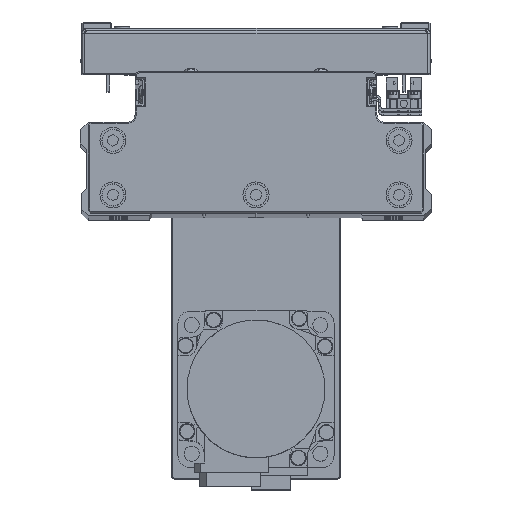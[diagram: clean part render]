
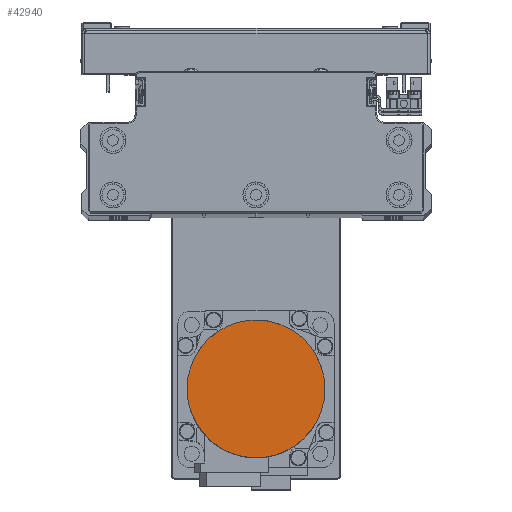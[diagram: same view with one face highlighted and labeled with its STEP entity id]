
A CAD part, top view. The second image highlights one B-rep face of the part: STEP entity #42940.
In plain terms, the highlighted planar face has unit normal (0, 0, 1) as drawn and (0, 0, -1) by its records, which use the part's own axes.
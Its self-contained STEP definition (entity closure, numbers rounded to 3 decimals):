
#840 = CARTESIAN_POINT ( 'NONE',  ( 26.5, 0., -109.7 ) ) ;
#1058 = CARTESIAN_POINT ( 'NONE',  ( 8.539, 25.147, -109.7 ) ) ;
#1205 = CARTESIAN_POINT ( 'NONE',  ( -21.07, -16.165, -109.7 ) ) ;
#1282 = CARTESIAN_POINT ( 'NONE',  ( -21.07, 16.165, -109.7 ) ) ;
#1438 = CARTESIAN_POINT ( 'NONE',  ( 8.539, -25.147, -109.7 ) ) ;
#1651 = CARTESIAN_POINT ( 'NONE',  ( 26.5, 0., -109.7 ) ) ;
#3064 = B_SPLINE_CURVE_WITH_KNOTS ( 'NONE', 3,
 ( #38622, #7916, #21591, #35255, #4548, #18230, #31892, #1205, #14856, #28563, #42225, #11498, #25177, #38834, #8127, #21807, #35468, #4766, #18458, #32124, #1438, #15077, #28775, #42435, #11709, #25390, #39045, #8338, #22034, #35699, #4995, #18684, #32341, #1651 ),
 .UNSPECIFIED., .F., .F.,
 ( 4, 2, 2, 2, 2, 2, 2, 2, 2, 2, 2, 2, 2, 2, 2, 2, 4 ),
 ( 0., 0.063, 0.125, 0.188, 0.25, 0.312, 0.375, 0.437, 0.5, 0.562, 0.625, 0.687, 0.75, 0.813, 0.875, 0.938, 1. ),
 .UNSPECIFIED. ) ;
#4407 = CARTESIAN_POINT ( 'NONE',  ( 16.165, 21.07, -109.7 ) ) ;
#4548 = CARTESIAN_POINT ( 'NONE',  ( -25.147, -8.539, -109.7 ) ) ;
#4619 = CARTESIAN_POINT ( 'NONE',  ( -16.165, 21.07, -109.7 ) ) ;
#4766 = CARTESIAN_POINT ( 'NONE',  ( 1.734, -26.5, -109.7 ) ) ;
#4995 = CARTESIAN_POINT ( 'NONE',  ( 25.652, -6.871, -109.7 ) ) ;
#7773 = CARTESIAN_POINT ( 'NONE',  ( 21.07, 16.165, -109.7 ) ) ;
#7916 = CARTESIAN_POINT ( 'NONE',  ( -26.5, -1.734, -109.7 ) ) ;
#7986 = CARTESIAN_POINT ( 'NONE',  ( -8.539, 25.147, -109.7 ) ) ;
#8127 = CARTESIAN_POINT ( 'NONE',  ( -6.871, -25.652, -109.7 ) ) ;
#8195 = CARTESIAN_POINT ( 'NONE',  ( -26.5, 0., -109.7 ) ) ;
#8338 = CARTESIAN_POINT ( 'NONE',  ( 22.998, -13.28, -109.7 ) ) ;
#8986 = ORIENTED_EDGE ( 'NONE', *, *, #30654, .F. ) ;
#11121 = CARTESIAN_POINT ( 'NONE',  ( 25.147, 8.539, -109.7 ) ) ;
#11352 = CARTESIAN_POINT ( 'NONE',  ( -1.734, 26.5, -109.7 ) ) ;
#11498 = CARTESIAN_POINT ( 'NONE',  ( -13.28, -22.998, -109.7 ) ) ;
#11566 = CARTESIAN_POINT ( 'NONE',  ( -25.652, 6.871, -109.7 ) ) ;
#11709 = CARTESIAN_POINT ( 'NONE',  ( 17.512, -19.965, -109.7 ) ) ;
#11768 = AXIS2_PLACEMENT_3D ( 'NONE', #13606, #27301, #40961 ) ;
#13606 = CARTESIAN_POINT ( 'NONE',  ( 0., 0., -109.7 ) ) ;
#13689 = EDGE_LOOP ( 'NONE', ( #39924, #8986 ) ) ;
#14484 = CARTESIAN_POINT ( 'NONE',  ( 26.5, 1.734, -109.7 ) ) ;
#14697 = CARTESIAN_POINT ( 'NONE',  ( 6.871, 25.652, -109.7 ) ) ;
#14856 = CARTESIAN_POINT ( 'NONE',  ( -19.965, -17.512, -109.7 ) ) ;
#14934 = CARTESIAN_POINT ( 'NONE',  ( -22.998, 13.28, -109.7 ) ) ;
#15077 = CARTESIAN_POINT ( 'NONE',  ( 11.744, -23.819, -109.7 ) ) ;
#18085 = CARTESIAN_POINT ( 'NONE',  ( 13.28, 22.998, -109.7 ) ) ;
#18230 = CARTESIAN_POINT ( 'NONE',  ( -23.819, -11.744, -109.7 ) ) ;
#18298 = CARTESIAN_POINT ( 'NONE',  ( -17.512, 19.965, -109.7 ) ) ;
#18458 = CARTESIAN_POINT ( 'NONE',  ( 3.469, -26.329, -109.7 ) ) ;
#18684 = CARTESIAN_POINT ( 'NONE',  ( 26.329, -3.469, -109.7 ) ) ;
#19760 = VERTEX_POINT ( 'NONE', #21893 ) ;
#21453 = CARTESIAN_POINT ( 'NONE',  ( 19.965, 17.512, -109.7 ) ) ;
#21591 = CARTESIAN_POINT ( 'NONE',  ( -26.329, -3.469, -109.7 ) ) ;
#21668 = CARTESIAN_POINT ( 'NONE',  ( -11.744, 23.819, -109.7 ) ) ;
#21757 = CARTESIAN_POINT ( 'NONE',  ( 26.5, 0., -109.7 ) ) ;
#21807 = CARTESIAN_POINT ( 'NONE',  ( -3.469, -26.329, -109.7 ) ) ;
#21893 = CARTESIAN_POINT ( 'NONE',  ( -26.5, 0., -109.7 ) ) ;
#22034 = CARTESIAN_POINT ( 'NONE',  ( 23.819, -11.744, -109.7 ) ) ;
#24412 = B_SPLINE_CURVE_WITH_KNOTS ( 'NONE', 3,
 ( #840, #14484, #28184, #41841, #11121, #24804, #38468, #7773, #21453, #35119, #4407, #18085, #31757, #1058, #14697, #28402, #42068, #11352, #25040, #38694, #7986, #21668, #35331, #4619, #18298, #31971, #1282, #14934, #28638, #42295, #11566, #25250, #38911, #8195 ),
 .UNSPECIFIED., .F., .F.,
 ( 4, 2, 2, 2, 2, 2, 2, 2, 2, 2, 2, 2, 2, 2, 2, 2, 4 ),
 ( 0., 0.062, 0.125, 0.187, 0.25, 0.312, 0.375, 0.437, 0.5, 0.562, 0.625, 0.687, 0.75, 0.813, 0.875, 0.938, 1. ),
 .UNSPECIFIED. ) ;
#24804 = CARTESIAN_POINT ( 'NONE',  ( 23.819, 11.744, -109.7 ) ) ;
#25040 = CARTESIAN_POINT ( 'NONE',  ( -3.469, 26.329, -109.7 ) ) ;
#25177 = CARTESIAN_POINT ( 'NONE',  ( -11.744, -23.819, -109.7 ) ) ;
#25250 = CARTESIAN_POINT ( 'NONE',  ( -26.329, 3.469, -109.7 ) ) ;
#25390 = CARTESIAN_POINT ( 'NONE',  ( 19.965, -17.512, -109.7 ) ) ;
#27301 = DIRECTION ( 'NONE',  ( 0., 0., 1. ) ) ;
#28184 = CARTESIAN_POINT ( 'NONE',  ( 26.329, 3.469, -109.7 ) ) ;
#28402 = CARTESIAN_POINT ( 'NONE',  ( 3.469, 26.329, -109.7 ) ) ;
#28563 = CARTESIAN_POINT ( 'NONE',  ( -17.512, -19.965, -109.7 ) ) ;
#28635 = PLANE ( 'NONE',  #11768 ) ;
#28638 = CARTESIAN_POINT ( 'NONE',  ( -23.819, 11.744, -109.7 ) ) ;
#28775 = CARTESIAN_POINT ( 'NONE',  ( 13.28, -22.998, -109.7 ) ) ;
#30654 = EDGE_CURVE ( 'NONE', #19760, #43948, #3064, .T. ) ;
#30663 = FACE_OUTER_BOUND ( 'NONE', #13689, .T. ) ;
#31757 = CARTESIAN_POINT ( 'NONE',  ( 11.744, 23.819, -109.7 ) ) ;
#31892 = CARTESIAN_POINT ( 'NONE',  ( -22.998, -13.28, -109.7 ) ) ;
#31971 = CARTESIAN_POINT ( 'NONE',  ( -19.965, 17.512, -109.7 ) ) ;
#32124 = CARTESIAN_POINT ( 'NONE',  ( 6.871, -25.652, -109.7 ) ) ;
#32341 = CARTESIAN_POINT ( 'NONE',  ( 26.5, -1.734, -109.7 ) ) ;
#35119 = CARTESIAN_POINT ( 'NONE',  ( 17.512, 19.965, -109.7 ) ) ;
#35255 = CARTESIAN_POINT ( 'NONE',  ( -25.652, -6.871, -109.7 ) ) ;
#35331 = CARTESIAN_POINT ( 'NONE',  ( -13.28, 22.998, -109.7 ) ) ;
#35468 = CARTESIAN_POINT ( 'NONE',  ( -1.734, -26.5, -109.7 ) ) ;
#35624 = EDGE_CURVE ( 'NONE', #43948, #19760, #24412, .T. ) ;
#35699 = CARTESIAN_POINT ( 'NONE',  ( 25.147, -8.539, -109.7 ) ) ;
#38468 = CARTESIAN_POINT ( 'NONE',  ( 22.998, 13.28, -109.7 ) ) ;
#38622 = CARTESIAN_POINT ( 'NONE',  ( -26.5, 0., -109.7 ) ) ;
#38694 = CARTESIAN_POINT ( 'NONE',  ( -6.871, 25.652, -109.7 ) ) ;
#38834 = CARTESIAN_POINT ( 'NONE',  ( -8.539, -25.147, -109.7 ) ) ;
#38911 = CARTESIAN_POINT ( 'NONE',  ( -26.5, 1.734, -109.7 ) ) ;
#39045 = CARTESIAN_POINT ( 'NONE',  ( 21.07, -16.165, -109.7 ) ) ;
#39924 = ORIENTED_EDGE ( 'NONE', *, *, #35624, .F. ) ;
#40961 = DIRECTION ( 'NONE',  ( 1., 0., 0. ) ) ;
#41841 = CARTESIAN_POINT ( 'NONE',  ( 25.652, 6.871, -109.7 ) ) ;
#42068 = CARTESIAN_POINT ( 'NONE',  ( 1.734, 26.5, -109.7 ) ) ;
#42225 = CARTESIAN_POINT ( 'NONE',  ( -16.165, -21.07, -109.7 ) ) ;
#42295 = CARTESIAN_POINT ( 'NONE',  ( -25.147, 8.539, -109.7 ) ) ;
#42435 = CARTESIAN_POINT ( 'NONE',  ( 16.165, -21.07, -109.7 ) ) ;
#42940 = ADVANCED_FACE ( 'NONE', ( #30663 ), #28635, .F. ) ;
#43948 = VERTEX_POINT ( 'NONE', #21757 ) ;
